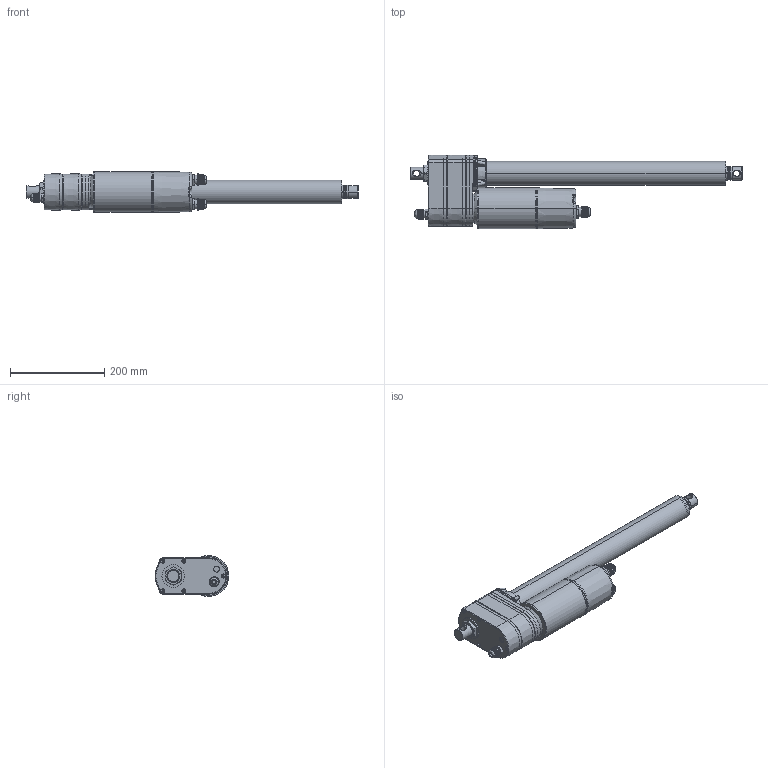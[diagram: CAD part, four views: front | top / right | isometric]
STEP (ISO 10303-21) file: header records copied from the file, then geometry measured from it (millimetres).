
FILE_DESCRIPTION((''),' ');
FILE_NAME('DSZY6-B-305-LT.stp',' ',('R. Lindner'),('MSW GmbH'),' ','ACIS 14.0',' ');
FILE_SCHEMA(('automotive_design'));
Length unit declared in the file: inch
Products named in the file (29): IA05BL04_ASM|Next assembly relationship#01_ASM|Next assembly relationship#19;19; IA05BL04_ASM|Next assembly relationship#01_ASM|Next assembly relationship#20;20; IA05BL04_ASM|Next assembly relationship#01_ASM|Next assembly relationship#21;21; IA05BL04_ASM|Next assembly relationship#01_ASM|Next assembly relationship#48;48; IA05BL04_ASM|Next assembly relationship#02-1_ASM|Next assembly relationship#85;85; IA05BL04_ASM|Next assembly relationship#02-1_ASM|Next assembly relationship#91;91; IA05BL04_ASM|Next assembly relationship#02-1_ASM|Next assembly relationship#86_BODY_M12;86_BODY_M12; IA05BL04_ASM|Next assembly relationship#02-1_ASM|Next assembly relationship#87;87; IA05BL04_ASM|Next assembly relationship#02-1_ASM|Next assembly relationship#89;89; IA05BL04_ASM|Next assembly relationship#05_AC-1_ASM|Next assembly relationship#43_AC;43_AC; IA05BL04_ASM|Next assembly relationship#05_AC-1_ASM|Next assembly relationship#42_SPACER;42_SPACER; IA05BL04_ASM|Next assembly relationship#05_AC-1_ASM|Next assembly relationship#42_AC;42_AC; IA05BL04_ASM|Next assembly relationship#05_AC-1_ASM|Next assembly relationship#42_AC_COVER;42_AC_COVER; IA05BL04_ASM|Next assembly relationship#05_AC-1_ASM|Next assembly relationship#AC_MOTOR_COVER;AC_MOTOR_COVER; IA05BL04_ASM|Next assembly relationship#05_AC-1_ASM|Next assembly relationship#86_BODY_M16;86_BODY_M16; IA05BL04_ASM|Next assembly relationship#04_270_ASM|Next assembly relationship#03_ASM|Next assembly relationship#4;4; IA05BL04_ASM|Next assembly relationship#04_270_ASM|Next assembly relationship#03_ASM|Next assembly relationship#6;6; IA05BL04_ASM|Next assembly relationship#04_270_ASM|Next assembly relationship#7_270;7_270; IA05BL04_ASM|Next assembly relationship#04_270_ASM|Next assembly relationship#8;8; IA05BL04_ASM|Next assembly relationship#49;49; IA05BL04_ASM|Next assembly relationship#48;48; IA05BL04_ASM|Next assembly relationship#44;44
Bounding box: 705.7 x 156.73 x 87.3 mm (x, y, z)
Volume: 1300399.4 mm3; surface area: 542984.7 mm2
Topology: 29 solids, 29 shells, 1525 faces, 3877 edges, 2442 vertices
Faces by surface type: plane 731, cylinder 382, cone 179, bspline 120, torus 95, sphere 18
Entity records: 65344 total; most frequent: CARTESIAN_POINT 16326, ORIENTED_EDGE 7714, DIRECTION 7332, EDGE_CURVE 3857, AXIS2_PLACEMENT_3D 2730, VERTEX_POINT 2442, LINE 1872, VECTOR 1872
